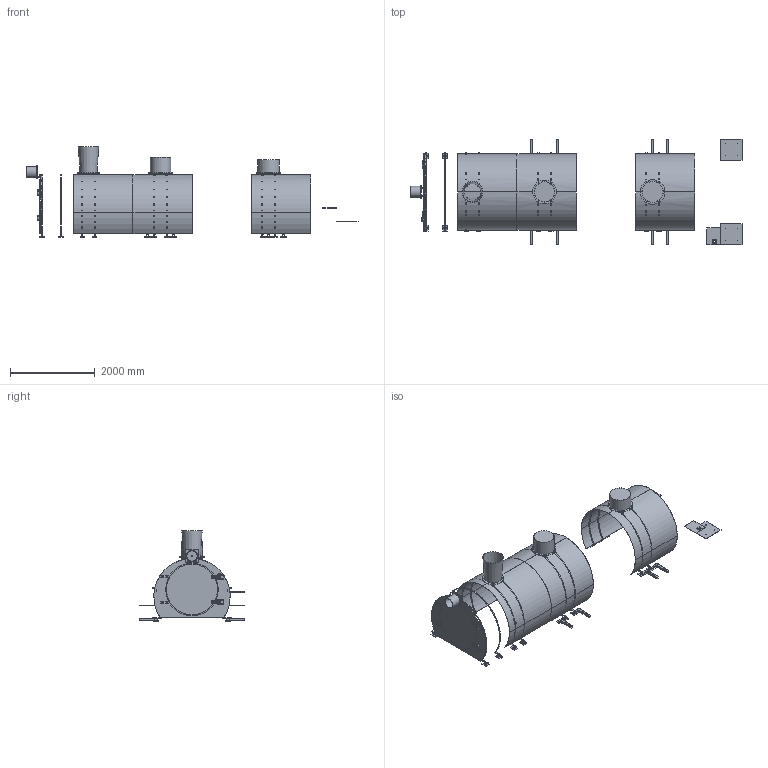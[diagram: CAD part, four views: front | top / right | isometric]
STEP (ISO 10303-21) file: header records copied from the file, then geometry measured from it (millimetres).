
FILE_DESCRIPTION(('Open CASCADE Model'),'2;1');
FILE_NAME('Open CASCADE Shape Model','2026-10-19T18:47:59',('Author'),( 'Open CASCADE'),'Open CASCADE STEP processor 7.8','Open CASCADE 7.8' ,'Unknown');
FILE_SCHEMA(('AUTOMOTIVE_DESIGN { 1 0 10303 214 1 1 1 1 }'));
Length unit declared in the file: millimetre
Products named in the file (179): Open CASCADE STEP translator 7.8 1; Open CASCADE STEP translator 7.8 1.1; Open CASCADE STEP translator 7.8 1.2; Open CASCADE STEP translator 7.8 1.3; Open CASCADE STEP translator 7.8 1.4; Open CASCADE STEP translator 7.8 1.5; Open CASCADE STEP translator 7.8 1.6; Open CASCADE STEP translator 7.8 1.7; Open CASCADE STEP translator 7.8 1.8; Open CASCADE STEP translator 7.8 1.9; Open CASCADE STEP translator 7.8 1.10; Open CASCADE STEP translator 7.8 1.11; Open CASCADE STEP translator 7.8 1.12; Open CASCADE STEP translator 7.8 1.13; Open CASCADE STEP translator 7.8 1.14; Open CASCADE STEP translator 7.8 1.15; Open CASCADE STEP translator 7.8 1.16; Open CASCADE STEP translator 7.8 1.17; Open CASCADE STEP translator 7.8 1.18; Open CASCADE STEP translator 7.8 1.19; Open CASCADE STEP translator 7.8 1.20; Open CASCADE STEP translator 7.8 1.21; Open CASCADE STEP translator 7.8 1.22; Open CASCADE STEP translator 7.8 1.23; Open CASCADE STEP translator 7.8 1.24; Open CASCADE STEP translator 7.8 1.25; Open CASCADE STEP translator 7.8 1.26; Open CASCADE STEP translator 7.8 1.27; Open CASCADE STEP translator 7.8 1.28; Open CASCADE STEP translator 7.8 1.29; Open CASCADE STEP translator 7.8 1.30; Open CASCADE STEP translator 7.8 1.31; Open CASCADE STEP translator 7.8 1.32; Open CASCADE STEP translator 7.8 1.33; Open CASCADE STEP translator 7.8 1.34; Open CASCADE STEP translator 7.8 1.35; Open CASCADE STEP translator 7.8 1.36; Open CASCADE STEP translator 7.8 1.37; Open CASCADE STEP translator 7.8 1.38; Open CASCADE STEP translator 7.8 1.39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
Assembly tree (178 placements, depth 2):
  Open CASCADE STEP translator 7.8 1
    Open CASCADE STEP translator 7.8 1.1
    Open CASCADE STEP translator 7.8 1.2
    Open CASCADE STEP translator 7.8 1.3
    Open CASCADE STEP translator 7.8 1.4
    Open CASCADE STEP translator 7.8 1.5
    Open CASCADE STEP translator 7.8 1.6
    Open CASCADE STEP translator 7.8 1.7
    Open CASCADE STEP translator 7.8 1.8
    Open CASCADE STEP translator 7.8 1.9
    Open CASCADE STEP translator 7.8 1.10
    Open CASCADE STEP translator 7.8 1.11
    Open CASCADE STEP translator 7.8 1.12
    Open CASCADE STEP translator 7.8 1.13
    Open CASCADE STEP translator 7.8 1.14
    Open CASCADE STEP translator 7.8 1.15
    Open CASCADE STEP translator 7.8 1.16
    Open CASCADE STEP translator 7.8 1.17
    Open CASCADE STEP translator 7.8 1.18
    Open CASCADE STEP translator 7.8 1.19
    Open CASCADE STEP translator 7.8 1.20
    Open CASCADE STEP translator 7.8 1.21
    Open CASCADE STEP translator 7.8 1.22
    Open CASCADE STEP translator 7.8 1.23
    Open CASCADE STEP translator 7.8 1.24
    Open CASCADE STEP translator 7.8 1.25
    Open CASCADE STEP translator 7.8 1.26
    Open CASCADE STEP translator 7.8 1.27
    Open CASCADE STEP translator 7.8 1.28
    Open CASCADE STEP translator 7.8 1.29
    Open CASCADE STEP translator 7.8 1.30
    Open CASCADE STEP translator 7.8 1.31
    Open CASCADE STEP translator 7.8 1.32
    Open CASCADE STEP translator 7.8 1.33
    Open CASCADE STEP translator 7.8 1.34
    Open CASCADE STEP translator 7.8 1.35
    Open CASCADE STEP translator 7.8 1.36
    Open CASCADE STEP translator 7.8 1.37
    Open CASCADE STEP translator 7.8 1.38
    Open CASCADE STEP translator 7.8 1.39
    Open CASCADE STEP translator 7.8 1.40
    Open CASCADE STEP translator 7.8 1.41
    Open CASCADE STEP translator 7.8 1.42
    Open CASCADE STEP translator 7.8 1.43
    Open CASCADE STEP translator 7.8 1.44
    Open CASCADE STEP translator 7.8 1.45
    Open CASCADE STEP translator 7.8 1.46
    Open CASCADE STEP translator 7.8 1.47
    Open CASCADE STEP translator 7.8 1.48
    Open CASCADE STEP translator 7.8 1.49
    Open CASCADE STEP translator 7.8 1.50
    Open CASCADE STEP translator 7.8 1.51
    Open CASCADE STEP translator 7.8 1.52
    Open CASCADE STEP translator 7.8 1.53
    Open CASCADE STEP translator 7.8 1.54
    Open CASCADE STEP translator 7.8 1.55
    Open CASCADE STEP translator 7.8 1.56
    Open CASCADE STEP translator 7.8 1.57
    Open CASCADE STEP translator 7.8 1.58
    Open CASCADE STEP translator 7.8 1.59
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Bounding box: 7835 x 2500 x 2125 mm (x, y, z)
Volume: 102816488.4 mm3; surface area: 52587150.8 mm2
Topology: 178 solids, 178 shells, 1518 faces, 3466 edges, 2302 vertices
Faces by surface type: plane 1192, cylinder 324, cone 2
Full cylindrical faces by diameter (mm): 3.2 x4, 3.5 x2, 4 x2, 4.5 x8, 8.5 x16, 9 x114, 11 x24, 12 x2, 13 x16, 20 x8, 20.4 x2, 20.5 x12, 22 x2, 30 x1, 32 x4, 34 x2, 39 x1, 244 x2, 260 x1, 280 x1, 394 x2, 474 x3, 480 x2, 494 x3, 500 x4, 560 x2, 580 x2, 1200 x2, 1240 x1
Entity records: 92075 total; most frequent: CARTESIAN_POINT 17043, DIRECTION 13465, LINE 7961, VECTOR 7961, ORIENTED_EDGE 6940, PCURVE 6932, DEFINITIONAL_REPRESENTATION 6932, EDGE_CURVE 3466
